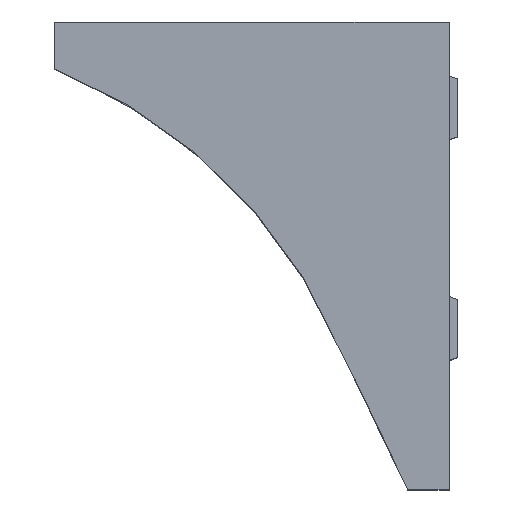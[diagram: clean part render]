
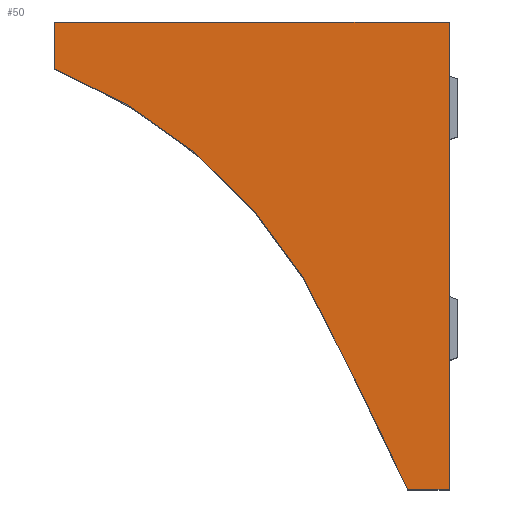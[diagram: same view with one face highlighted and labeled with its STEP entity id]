
A CAD part, top view. The second image highlights one B-rep face of the part: STEP entity #50.
In plain terms, the highlighted planar face has unit normal (0, 0, 1) as drawn and (0, 0, -1) by its records, which use the part's own axes.
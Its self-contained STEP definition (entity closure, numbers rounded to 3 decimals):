
#50=ADVANCED_FACE('',(#101),#1747,.T.);
#101=FACE_OUTER_BOUND('',#152,.T.);
#152=EDGE_LOOP('',(#225,#226,#227,#228,#229));
#225=ORIENTED_EDGE('',*,*,#1467,.T.);
#226=ORIENTED_EDGE('',*,*,#1468,.T.);
#227=ORIENTED_EDGE('',*,*,#1469,.T.);
#228=ORIENTED_EDGE('',*,*,#1470,.T.);
#229=ORIENTED_EDGE('',*,*,#1471,.T.);
#483=B_SPLINE_CURVE_WITH_KNOTS('',1,(#2330,#2331),.UNSPECIFIED.,.F.,.F.,
(2,2),(-91.5,-87.5),.UNSPECIFIED.);
#484=B_SPLINE_CURVE_WITH_KNOTS('',1,(#2335,#2336),.UNSPECIFIED.,.F.,.F.,
(2,2),(-87.5,-42.5),.UNSPECIFIED.);
#485=B_SPLINE_CURVE_WITH_KNOTS('',1,(#2340,#2341),.UNSPECIFIED.,.F.,.F.,
(2,2),(-42.5,-4.5),.UNSPECIFIED.);
#486=B_SPLINE_CURVE_WITH_KNOTS('',1,(#2345,#2346),.UNSPECIFIED.,.F.,.F.,
(2,2),(-4.5,0.),.UNSPECIFIED.);
#487=B_SPLINE_CURVE_WITH_KNOTS('',1,(#2350,#2351),.UNSPECIFIED.,.F.,.F.,
(2,2),(-145.601,-91.5),.UNSPECIFIED.);
#509=B_SPLINE_CURVE_WITH_KNOTS('',1,(#2452,#2453),.UNSPECIFIED.,.F.,.F.,
(2,2),(-91.5,-87.5),.UNSPECIFIED.);
#514=B_SPLINE_CURVE_WITH_KNOTS('',1,(#2462,#2463),.UNSPECIFIED.,.F.,.F.,
(2,2),(-87.5,-42.5),.UNSPECIFIED.);
#559=B_SPLINE_CURVE_WITH_KNOTS('',1,(#3676,#3677),.UNSPECIFIED.,.F.,.F.,
(2,2),(-42.5,-4.5),.UNSPECIFIED.);
#575=B_SPLINE_CURVE_WITH_KNOTS('',1,(#4784,#4785),.UNSPECIFIED.,.F.,.F.,
(2,2),(-4.5,0.),.UNSPECIFIED.);
#822=PCURVE('',#1747,#1080);
#823=PCURVE('',#1747,#1081);
#824=PCURVE('',#1747,#1082);
#825=PCURVE('',#1747,#1083);
#826=PCURVE('',#1747,#1084);
#827=PCURVE('',#1730,#1085);
#844=PCURVE('',#1749,#1102);
#848=PCURVE('',#1750,#1106);
#876=PCURVE('',#1751,#1134);
#891=PCURVE('',#1752,#1149);
#1080=DEFINITIONAL_REPRESENTATION('',(#1597),#7652);
#1081=DEFINITIONAL_REPRESENTATION('',(#1598),#7652);
#1082=DEFINITIONAL_REPRESENTATION('',(#1599),#7652);
#1083=DEFINITIONAL_REPRESENTATION('',(#1600),#7652);
#1084=DEFINITIONAL_REPRESENTATION('',(#1601),#7652);
#1085=DEFINITIONAL_REPRESENTATION('',(#487),#7652);
#1102=DEFINITIONAL_REPRESENTATION('',(#509),#7652);
#1106=DEFINITIONAL_REPRESENTATION('',(#514),#7652);
#1134=DEFINITIONAL_REPRESENTATION('',(#559),#7652);
#1149=DEFINITIONAL_REPRESENTATION('',(#575),#7652);
#1338=SURFACE_CURVE('',#1596,(#822,#827),.PCURVE_S1.);
#1339=SURFACE_CURVE('',#483,(#823,#844),.PCURVE_S1.);
#1340=SURFACE_CURVE('',#484,(#824,#848),.PCURVE_S1.);
#1341=SURFACE_CURVE('',#485,(#825,#876),.PCURVE_S1.);
#1342=SURFACE_CURVE('',#486,(#826,#891),.PCURVE_S1.);
#1467=EDGE_CURVE('',#1644,#1646,#1338,.T.);
#1468=EDGE_CURVE('',#1646,#1647,#1339,.T.);
#1469=EDGE_CURVE('',#1647,#1648,#1340,.T.);
#1470=EDGE_CURVE('',#1648,#1649,#1341,.T.);
#1471=EDGE_CURVE('',#1649,#1644,#1342,.T.);
#1596=(
BOUNDED_CURVE()
B_SPLINE_CURVE(2,(#2320,#2321,#2322,#2323,#2324),.UNSPECIFIED.,.F.,.F.)
B_SPLINE_CURVE_WITH_KNOTS((3,2,3),(-145.601,-109.093,-91.5),
 .UNSPECIFIED.)
CURVE()
GEOMETRIC_REPRESENTATION_ITEM()
RATIONAL_B_SPLINE_CURVE((1.,0.933,1.,1.,1.))
REPRESENTATION_ITEM('')
);
#1597=(
BOUNDED_CURVE()
B_SPLINE_CURVE(2,(#2325,#2326,#2327,#2328,#2329),.UNSPECIFIED.,.F.,.F.)
B_SPLINE_CURVE_WITH_KNOTS((3,2,3),(-145.601,-109.093,-91.5),
 .UNSPECIFIED.)
CURVE()
GEOMETRIC_REPRESENTATION_ITEM()
RATIONAL_B_SPLINE_CURVE((1.,0.933,1.,1.,1.))
REPRESENTATION_ITEM('')
);
#1598=(
BOUNDED_CURVE()
B_SPLINE_CURVE(2,(#2332,#2333,#2334),.UNSPECIFIED.,.F.,.F.)
B_SPLINE_CURVE_WITH_KNOTS((3,3),(-91.5,-87.5),.UNSPECIFIED.)
CURVE()
GEOMETRIC_REPRESENTATION_ITEM()
RATIONAL_B_SPLINE_CURVE((1.,1.,1.))
REPRESENTATION_ITEM('')
);
#1599=(
BOUNDED_CURVE()
B_SPLINE_CURVE(2,(#2337,#2338,#2339),.UNSPECIFIED.,.F.,.F.)
B_SPLINE_CURVE_WITH_KNOTS((3,3),(-87.5,-42.5),.UNSPECIFIED.)
CURVE()
GEOMETRIC_REPRESENTATION_ITEM()
RATIONAL_B_SPLINE_CURVE((1.,1.,1.))
REPRESENTATION_ITEM('')
);
#1600=(
BOUNDED_CURVE()
B_SPLINE_CURVE(2,(#2342,#2343,#2344),.UNSPECIFIED.,.F.,.F.)
B_SPLINE_CURVE_WITH_KNOTS((3,3),(-42.5,-4.5),.UNSPECIFIED.)
CURVE()
GEOMETRIC_REPRESENTATION_ITEM()
RATIONAL_B_SPLINE_CURVE((1.,1.,1.))
REPRESENTATION_ITEM('')
);
#1601=(
BOUNDED_CURVE()
B_SPLINE_CURVE(2,(#2347,#2348,#2349),.UNSPECIFIED.,.F.,.F.)
B_SPLINE_CURVE_WITH_KNOTS((3,3),(-4.5,0.),.UNSPECIFIED.)
CURVE()
GEOMETRIC_REPRESENTATION_ITEM()
RATIONAL_B_SPLINE_CURVE((1.,1.,1.))
REPRESENTATION_ITEM('')
);
#1644=VERTEX_POINT('',#2234);
#1646=VERTEX_POINT('',#2236);
#1647=VERTEX_POINT('',#2237);
#1648=VERTEX_POINT('',#2238);
#1649=VERTEX_POINT('',#2239);
#1730=(
BOUNDED_SURFACE()
B_SPLINE_SURFACE(1,2,((#1903,#1904,#1905,#1906,#1907),(#1908,#1909,#1910,
#1911,#1912)),.UNSPECIFIED.,.F.,.F.,.F.)
B_SPLINE_SURFACE_WITH_KNOTS((2,2),(3,2,3),(0.,40.),(-145.601,-109.093,
-91.5),.UNSPECIFIED.)
GEOMETRIC_REPRESENTATION_ITEM()
RATIONAL_B_SPLINE_SURFACE(((1.,0.933,1.,1.,1.),(1.,0.933,
1.,1.,1.)))
REPRESENTATION_ITEM('')
SURFACE()
);
#1747=PLANE('',#1822);
#1749=PLANE('',#1824);
#1750=PLANE('',#1825);
#1751=PLANE('',#1826);
#1752=PLANE('',#1827);
#1822=AXIS2_PLACEMENT_3D('',#1902,#1862,$);
#1824=AXIS2_PLACEMENT_3D('',#1914,#1864,$);
#1825=AXIS2_PLACEMENT_3D('',#1915,#1865,$);
#1826=AXIS2_PLACEMENT_3D('',#1916,#1866,$);
#1827=AXIS2_PLACEMENT_3D('',#1917,#1867,$);
#1862=DIRECTION('',(0.,0.,-1.));
#1864=DIRECTION('',(0.,1.,0.));
#1865=DIRECTION('',(1.,0.,0.));
#1866=DIRECTION('',(0.,-1.,0.));
#1867=DIRECTION('',(-1.,0.,0.));
#1902=CARTESIAN_POINT('',(-38.,0.,-20.));
#1903=CARTESIAN_POINT('',(-38.,4.5,-20.));
#1904=CARTESIAN_POINT('',(-20.236,11.572,-20.));
#1905=CARTESIAN_POINT('',(-11.78,28.721,-20.));
#1906=CARTESIAN_POINT('',(-7.89,36.861,-20.));
#1907=CARTESIAN_POINT('',(-4.,45.,-20.));
#1908=CARTESIAN_POINT('',(-38.,4.5,20.));
#1909=CARTESIAN_POINT('',(-20.236,11.572,20.));
#1910=CARTESIAN_POINT('',(-11.78,28.721,20.));
#1911=CARTESIAN_POINT('',(-7.89,36.861,20.));
#1912=CARTESIAN_POINT('',(-4.,45.,20.));
#1914=CARTESIAN_POINT('',(-4.,45.,-20.));
#1915=CARTESIAN_POINT('',(0.,45.,-20.));
#1916=CARTESIAN_POINT('',(0.,0.,-20.));
#1917=CARTESIAN_POINT('',(-38.,0.,-20.));
#2234=CARTESIAN_POINT('',(-38.,4.5,-20.));
#2236=CARTESIAN_POINT('',(-4.,45.,-20.));
#2237=CARTESIAN_POINT('',(0.,45.,-20.));
#2238=CARTESIAN_POINT('',(0.,0.,-20.));
#2239=CARTESIAN_POINT('',(-38.,0.,-20.));
#2320=CARTESIAN_POINT('',(-38.,4.5,-20.));
#2321=CARTESIAN_POINT('',(-20.236,11.572,-20.));
#2322=CARTESIAN_POINT('',(-11.78,28.721,-20.));
#2323=CARTESIAN_POINT('',(-7.89,36.861,-20.));
#2324=CARTESIAN_POINT('',(-4.,45.,-20.));
#2325=CARTESIAN_POINT('',(0.,0.));
#2326=CARTESIAN_POINT('',(7.072,17.764));
#2327=CARTESIAN_POINT('',(24.221,26.22));
#2328=CARTESIAN_POINT('',(32.361,30.11));
#2329=CARTESIAN_POINT('',(40.5,34.));
#2330=CARTESIAN_POINT('',(-4.,45.,-20.));
#2331=CARTESIAN_POINT('',(0.,45.,-20.));
#2332=CARTESIAN_POINT('',(40.5,34.));
#2333=CARTESIAN_POINT('',(40.5,36.));
#2334=CARTESIAN_POINT('',(40.5,38.));
#2335=CARTESIAN_POINT('',(0.,45.,-20.));
#2336=CARTESIAN_POINT('',(0.,0.,-20.));
#2337=CARTESIAN_POINT('',(40.5,38.));
#2338=CARTESIAN_POINT('',(18.,38.));
#2339=CARTESIAN_POINT('',(-4.5,38.));
#2340=CARTESIAN_POINT('',(0.,0.,-20.));
#2341=CARTESIAN_POINT('',(-38.,0.,-20.));
#2342=CARTESIAN_POINT('',(-4.5,38.));
#2343=CARTESIAN_POINT('',(-4.5,19.));
#2344=CARTESIAN_POINT('',(-4.5,0.));
#2345=CARTESIAN_POINT('',(-38.,0.,-20.));
#2346=CARTESIAN_POINT('',(-38.,4.5,-20.));
#2347=CARTESIAN_POINT('',(-4.5,0.));
#2348=CARTESIAN_POINT('',(-2.25,0.));
#2349=CARTESIAN_POINT('',(0.,0.));
#2350=CARTESIAN_POINT('',(0.,-145.601));
#2351=CARTESIAN_POINT('',(0.,-91.5));
#2452=CARTESIAN_POINT('',(0.,-91.5));
#2453=CARTESIAN_POINT('',(0.,-87.5));
#2462=CARTESIAN_POINT('',(0.,-87.5));
#2463=CARTESIAN_POINT('',(0.,-42.5));
#3676=CARTESIAN_POINT('',(0.,-42.5));
#3677=CARTESIAN_POINT('',(0.,-4.5));
#4784=CARTESIAN_POINT('',(0.,-4.5));
#4785=CARTESIAN_POINT('',(0.,0.));
#7652=(
GEOMETRIC_REPRESENTATION_CONTEXT(2)
PARAMETRIC_REPRESENTATION_CONTEXT()
REPRESENTATION_CONTEXT('pspace','')
);
